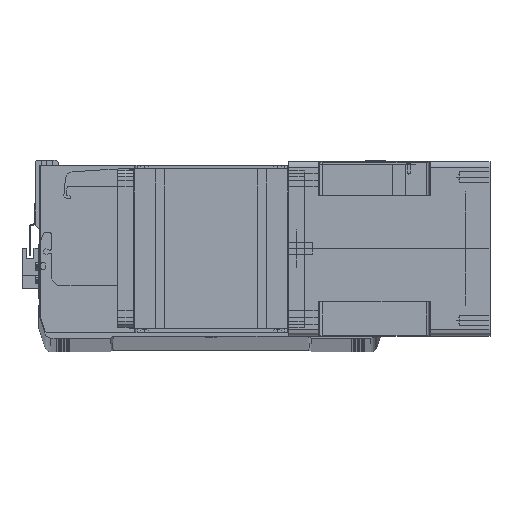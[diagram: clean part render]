
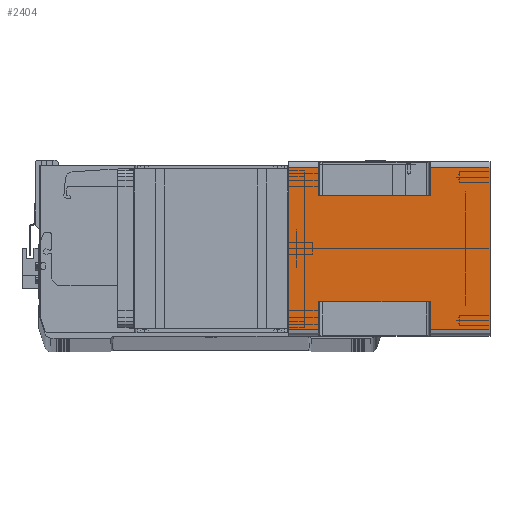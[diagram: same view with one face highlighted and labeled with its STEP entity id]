
A CAD part, top view. The second image highlights one B-rep face of the part: STEP entity #2404.
In plain terms, the highlighted planar face has unit normal (0, 0, 1) as drawn and (1, 0, 0) by its records, which use the part's own axes.
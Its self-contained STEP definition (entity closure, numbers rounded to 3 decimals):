
#433 = VECTOR ( 'NONE', #3025, 1000. ) ;
#549 = VERTEX_POINT ( 'NONE', #2043 ) ;
#1128 = CARTESIAN_POINT ( 'NONE',  ( 71., 43., -115.5 ) ) ;
#1375 = DIRECTION ( 'NONE',  ( 0., 1., 0. ) ) ;
#1633 = LINE ( 'NONE', #12660, #36348 ) ;
#1676 = CARTESIAN_POINT ( 'NONE',  ( 71., -66., -164. ) ) ;
#1728 = CARTESIAN_POINT ( 'NONE',  ( 71., 66., -115.5 ) ) ;
#2043 = CARTESIAN_POINT ( 'NONE',  ( 71., 66., 0. ) ) ;
#2291 = CARTESIAN_POINT ( 'NONE',  ( 71., -66., -24.5 ) ) ;
#2404 = ADVANCED_FACE ( 'NONE', ( #4382 ), #22151, .T. ) ;
#3025 = DIRECTION ( 'NONE',  ( 0., 1., 0. ) ) ;
#4382 = FACE_OUTER_BOUND ( 'NONE', #20954, .T. ) ;
#5294 = EDGE_CURVE ( 'NONE', #28745, #15078, #1633, .T. ) ;
#5430 = VECTOR ( 'NONE', #26592, 1000. ) ;
#5864 = ORIENTED_EDGE ( 'NONE', *, *, #31252, .F. ) ;
#5978 = CARTESIAN_POINT ( 'NONE',  ( 71., -66., -164. ) ) ;
#6428 = EDGE_CURVE ( 'NONE', #32392, #34726, #25026, .T. ) ;
#7021 = EDGE_CURVE ( 'NONE', #20509, #18035, #38778, .T. ) ;
#8927 = CARTESIAN_POINT ( 'NONE',  ( 71., 43., -24.5 ) ) ;
#9923 = EDGE_CURVE ( 'NONE', #35221, #549, #15669, .T. ) ;
#10322 = VECTOR ( 'NONE', #21371, 1000. ) ;
#10555 = ORIENTED_EDGE ( 'NONE', *, *, #21402, .F. ) ;
#10567 = CARTESIAN_POINT ( 'NONE',  ( 71., -43., -24.5 ) ) ;
#11331 = ORIENTED_EDGE ( 'NONE', *, *, #6428, .F. ) ;
#11473 = CARTESIAN_POINT ( 'NONE',  ( 71., -66., -164. ) ) ;
#12025 = DIRECTION ( 'NONE',  ( 0., 1., 0. ) ) ;
#12562 = CARTESIAN_POINT ( 'NONE',  ( 71., 43., -115.5 ) ) ;
#12566 = AXIS2_PLACEMENT_3D ( 'NONE', #11473, #19373, #36315 ) ;
#12660 = CARTESIAN_POINT ( 'NONE',  ( 71., -66., -164. ) ) ;
#12982 = CARTESIAN_POINT ( 'NONE',  ( 71., 66., -164. ) ) ;
#13664 = EDGE_CURVE ( 'NONE', #39671, #34726, #23727, .T. ) ;
#13710 = ORIENTED_EDGE ( 'NONE', *, *, #28864, .T. ) ;
#13789 = CARTESIAN_POINT ( 'NONE',  ( 71., -66., 0. ) ) ;
#14036 = CARTESIAN_POINT ( 'NONE',  ( 71., -66., -115.5 ) ) ;
#14326 = LINE ( 'NONE', #37045, #5430 ) ;
#14410 = CARTESIAN_POINT ( 'NONE',  ( 71., -66., -24.5 ) ) ;
#15078 = VERTEX_POINT ( 'NONE', #13789 ) ;
#15506 = EDGE_CURVE ( 'NONE', #35136, #20509, #31362, .T. ) ;
#15669 = LINE ( 'NONE', #31911, #32532 ) ;
#16275 = CARTESIAN_POINT ( 'NONE',  ( 71., -43., -115.5 ) ) ;
#16357 = CARTESIAN_POINT ( 'NONE',  ( 71., -66., -164. ) ) ;
#17090 = VERTEX_POINT ( 'NONE', #31086 ) ;
#17394 = CARTESIAN_POINT ( 'NONE',  ( 71., 66., -164. ) ) ;
#17935 = CARTESIAN_POINT ( 'NONE',  ( 71., -43., -164. ) ) ;
#17982 = CARTESIAN_POINT ( 'NONE',  ( 71., -66., -115.5 ) ) ;
#18035 = VERTEX_POINT ( 'NONE', #12562 ) ;
#18413 = ORIENTED_EDGE ( 'NONE', *, *, #7021, .T. ) ;
#18929 = ORIENTED_EDGE ( 'NONE', *, *, #5294, .F. ) ;
#19133 = LINE ( 'NONE', #10567, #37046 ) ;
#19373 = DIRECTION ( 'NONE',  ( 1., 0., 0. ) ) ;
#19638 = VECTOR ( 'NONE', #24692, 1000. ) ;
#19785 = ORIENTED_EDGE ( 'NONE', *, *, #34532, .T. ) ;
#20509 = VERTEX_POINT ( 'NONE', #1728 ) ;
#20601 = VECTOR ( 'NONE', #21544, 1000. ) ;
#20651 = DIRECTION ( 'NONE',  ( 0., 0., 1. ) ) ;
#20954 = EDGE_LOOP ( 'NONE', ( #40745, #22385, #11331, #13710, #30152, #18413, #5864, #27754, #33606, #10555, #18929, #19785 ) ) ;
#21371 = DIRECTION ( 'NONE',  ( 0., -1., 0. ) ) ;
#21402 = EDGE_CURVE ( 'NONE', #15078, #549, #34084, .T. ) ;
#21544 = DIRECTION ( 'NONE',  ( 0., -1., 0. ) ) ;
#22151 = PLANE ( 'NONE',  #12566 ) ;
#22385 = ORIENTED_EDGE ( 'NONE', *, *, #13664, .T. ) ;
#23085 = EDGE_CURVE ( 'NONE', #39671, #17090, #23822, .T. ) ;
#23727 = LINE ( 'NONE', #17982, #20601 ) ;
#23822 = LINE ( 'NONE', #17935, #19638 ) ;
#24692 = DIRECTION ( 'NONE',  ( 0., 0., 1. ) ) ;
#25026 = LINE ( 'NONE', #1676, #35610 ) ;
#26592 = DIRECTION ( 'NONE',  ( 0., 0., -1. ) ) ;
#27754 = ORIENTED_EDGE ( 'NONE', *, *, #29921, .T. ) ;
#28745 = VERTEX_POINT ( 'NONE', #2291 ) ;
#28864 = EDGE_CURVE ( 'NONE', #32392, #35136, #29339, .T. ) ;
#29105 = DIRECTION ( 'NONE',  ( 0., 1., 0. ) ) ;
#29339 = LINE ( 'NONE', #16357, #433 ) ;
#29905 = CARTESIAN_POINT ( 'NONE',  ( 71., 66., -24.5 ) ) ;
#29921 = EDGE_CURVE ( 'NONE', #37331, #35221, #37623, .T. ) ;
#30152 = ORIENTED_EDGE ( 'NONE', *, *, #15506, .T. ) ;
#30723 = DIRECTION ( 'NONE',  ( 0., 0., 1. ) ) ;
#31086 = CARTESIAN_POINT ( 'NONE',  ( 71., -43., -24.5 ) ) ;
#31252 = EDGE_CURVE ( 'NONE', #37331, #18035, #14326, .T. ) ;
#31362 = LINE ( 'NONE', #17394, #41378 ) ;
#31783 = DIRECTION ( 'NONE',  ( 0., 0., 1. ) ) ;
#31911 = CARTESIAN_POINT ( 'NONE',  ( 71., 66., -164. ) ) ;
#32204 = CARTESIAN_POINT ( 'NONE',  ( 71., -66., 0. ) ) ;
#32392 = VERTEX_POINT ( 'NONE', #5978 ) ;
#32532 = VECTOR ( 'NONE', #35428, 1000. ) ;
#33569 = VECTOR ( 'NONE', #29105, 1000. ) ;
#33606 = ORIENTED_EDGE ( 'NONE', *, *, #9923, .T. ) ;
#34084 = LINE ( 'NONE', #32204, #33569 ) ;
#34532 = EDGE_CURVE ( 'NONE', #28745, #17090, #19133, .T. ) ;
#34726 = VERTEX_POINT ( 'NONE', #14036 ) ;
#35136 = VERTEX_POINT ( 'NONE', #12982 ) ;
#35221 = VERTEX_POINT ( 'NONE', #29905 ) ;
#35428 = DIRECTION ( 'NONE',  ( 0., 0., 1. ) ) ;
#35503 = VECTOR ( 'NONE', #1375, 1000. ) ;
#35610 = VECTOR ( 'NONE', #31783, 1000. ) ;
#36315 = DIRECTION ( 'NONE',  ( 0., 1., 0. ) ) ;
#36348 = VECTOR ( 'NONE', #30723, 1000. ) ;
#37045 = CARTESIAN_POINT ( 'NONE',  ( 71., 43., -164. ) ) ;
#37046 = VECTOR ( 'NONE', #12025, 1000. ) ;
#37331 = VERTEX_POINT ( 'NONE', #8927 ) ;
#37623 = LINE ( 'NONE', #14410, #35503 ) ;
#38778 = LINE ( 'NONE', #1128, #10322 ) ;
#39671 = VERTEX_POINT ( 'NONE', #16275 ) ;
#40745 = ORIENTED_EDGE ( 'NONE', *, *, #23085, .F. ) ;
#41378 = VECTOR ( 'NONE', #20651, 1000. ) ;
